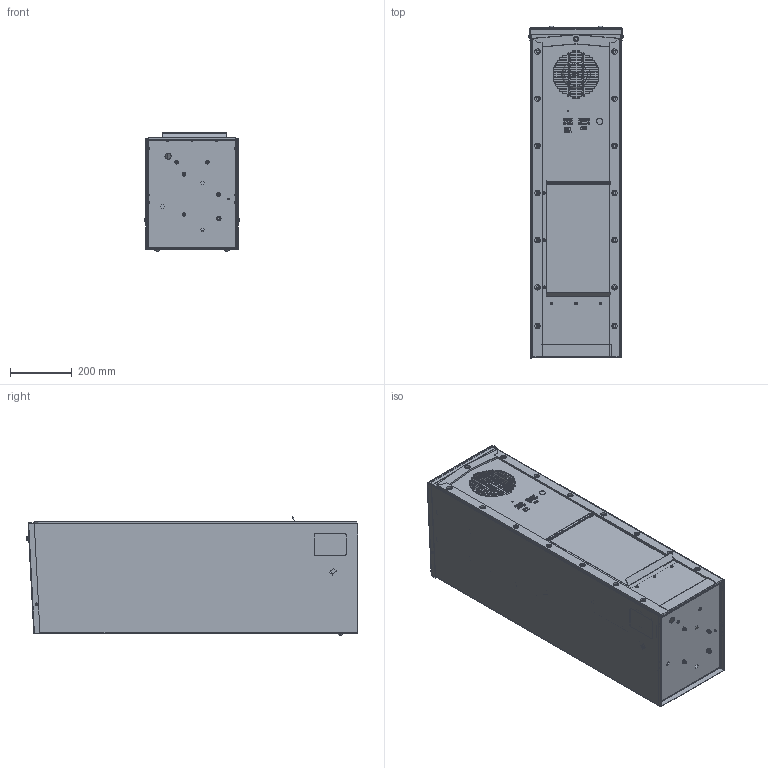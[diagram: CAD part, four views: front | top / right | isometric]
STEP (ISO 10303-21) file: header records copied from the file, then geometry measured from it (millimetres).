
FILE_DESCRIPTION (( 'STEP AP203' ), '1' );
FILE_NAME ('DTS 5541 Display.STEP', '2026-04-24T20:52:06', ( '' ), ( '' ), 'SwSTEP 2.0', 'SolidWorks 2024', '' );
FILE_SCHEMA (( 'CONFIG_CONTROL_DESIGN' ));
Products named in the file (1): DTS 5541 Display
Bounding box: 306.6 x 1074.37 x 382.65 mm (x, y, z)
Surface area: 4392479.2 mm2 (no closed solid volume)
Topology: 0 solids, 326 shells, 1805 faces, 14365 edges, 12517 vertices
Faces by surface type: plane 1110, cylinder 512, torus 93, bspline 48, cone 34, sphere 8
Entity records: 171150 total; most frequent: CARTESIAN_POINT 71873, ORIENTED_EDGE 17602, DIRECTION 17015, EDGE_CURVE 14360, VERTEX_POINT 12514, LINE 9359, VECTOR 9359, AXIS2_PLACEMENT_3D 3828
